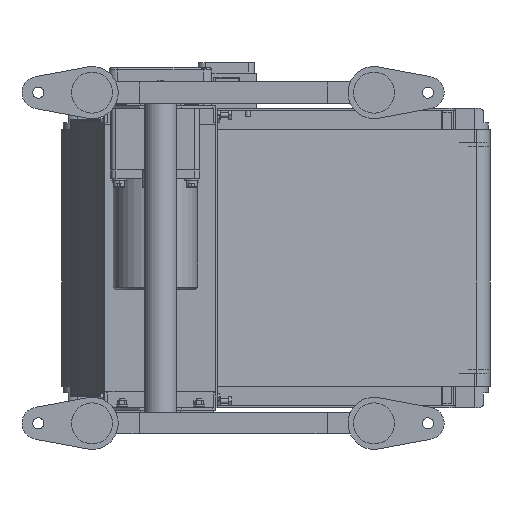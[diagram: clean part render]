
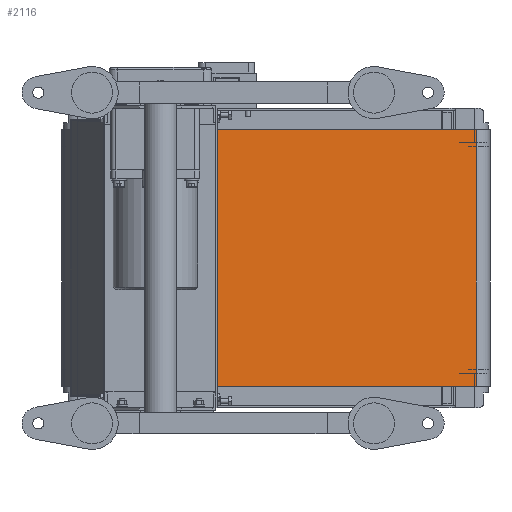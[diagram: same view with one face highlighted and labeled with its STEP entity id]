
A CAD part, front view. The second image highlights one B-rep face of the part: STEP entity #2116.
In plain terms, the highlighted planar face has unit normal (0.106, -0.994, 0).
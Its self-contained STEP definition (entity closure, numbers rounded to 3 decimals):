
#2116=ADVANCED_FACE('',(#4383),#4382,.F.);
#4382=PLANE('',#19577);
#4383=FACE_OUTER_BOUND('',#19578,.T.);
#19574=CARTESIAN_POINT('',(494.304,-33.04,-160.));
#19575=DIRECTION('',(-0.106,0.994,0.));
#19576=DIRECTION('',(-0.994,-0.106,0.));
#19577=AXIS2_PLACEMENT_3D('',#19574,#19575,#19576);
#19578=EDGE_LOOP('',(#28340,#28341,#28342,#28343));
#28340=ORIENTED_EDGE('',*,*,#35550,.T.);
#28341=ORIENTED_EDGE('',*,*,#35551,.F.);
#28342=ORIENTED_EDGE('',*,*,#35552,.F.);
#28343=ORIENTED_EDGE('',*,*,#35553,.T.);
#35550=EDGE_CURVE('',#40635,#40636,#40637,.T.);
#35551=EDGE_CURVE('',#40643,#40636,#40644,.T.);
#35552=EDGE_CURVE('',#40650,#40643,#40651,.T.);
#35553=EDGE_CURVE('',#40650,#40635,#40657,.T.);
#40635=VERTEX_POINT('',#64788);
#40636=VERTEX_POINT('',#64789);
#40637=LINE('',#64790,#64791);
#40643=VERTEX_POINT('',#64793);
#40644=LINE('',#64794,#64795);
#40650=VERTEX_POINT('',#64797);
#40651=LINE('',#64798,#64799);
#40657=LINE('',#64801,#64802);
#64788=CARTESIAN_POINT('',(148.19,-70.097,-150.));
#64789=CARTESIAN_POINT('',(484.361,-34.105,-150.));
#64790=CARTESIAN_POINT('',(148.19,-70.097,-150.));
#64791=VECTOR('',#64792,338.092);
#64792=DIRECTION('',(0.994,0.106,0.));
#64793=CARTESIAN_POINT('',(484.361,-34.105,150.));
#64794=CARTESIAN_POINT('',(484.361,-34.105,150.));
#64795=VECTOR('',#64796,300.);
#64796=DIRECTION('',(0.,0.,-1.));
#64797=CARTESIAN_POINT('',(148.19,-70.097,150.));
#64798=CARTESIAN_POINT('',(148.19,-70.097,150.));
#64799=VECTOR('',#64800,338.092);
#64800=DIRECTION('',(0.994,0.106,0.));
#64801=CARTESIAN_POINT('',(148.19,-70.097,150.));
#64802=VECTOR('',#64803,300.);
#64803=DIRECTION('',(0.,0.,-1.));
